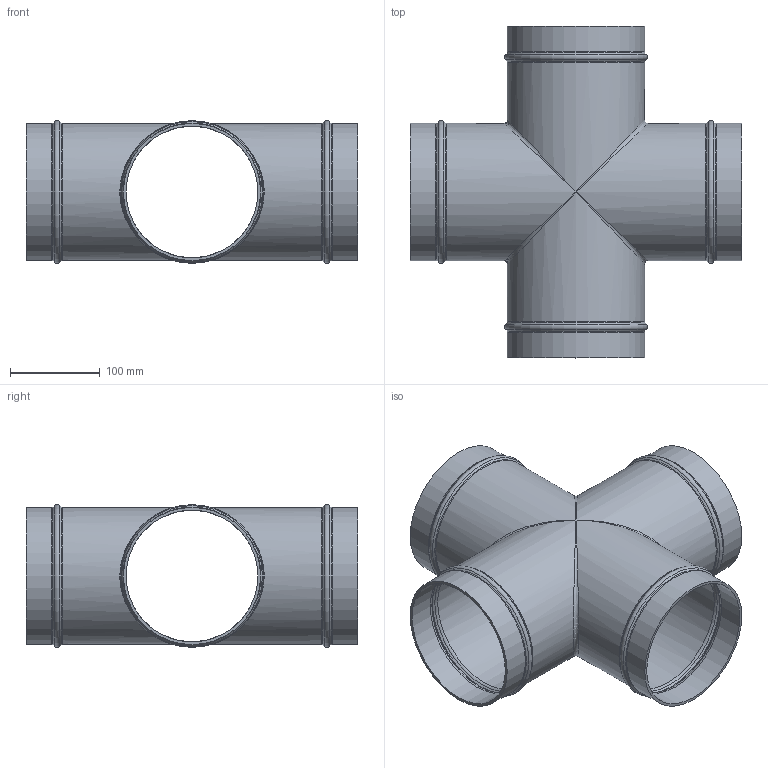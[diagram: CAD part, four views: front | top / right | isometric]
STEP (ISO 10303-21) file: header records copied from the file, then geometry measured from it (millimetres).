
FILE_DESCRIPTION(/* description */ (''),/* implementation_level */ '2;1');
FILE_NAME(/* name */ '30214100001.stp',/* time_stamp */ '2024-08-28T13:19:33+08:00',/* author */ (''),/* organization */ (''),/* preprocessor_version */ 'ST-DEVELOPER v14',/* originating_system */ 'SIEMENS PLM Software NX 8.0',/* authorisation */ '');
FILE_SCHEMA (('CONFIG_CONTROL_DESIGN'));
Length unit declared in the file: millimetre
Products named in the file (1): 30214100001
Bounding box: 370 x 370 x 159 mm (x, y, z)
Volume: 788738 mm3; surface area: 530033.9 mm2
Topology: 1 solids, 1 shells, 64 faces, 139 edges, 67 vertices
Faces by surface type: torus 24, cylinder 16, cone 16, plane 4, bspline 4
Full cylindrical faces by diameter (mm): 147 x8, 153 x8
Entity records: 1584 total; most frequent: CARTESIAN_POINT 405, DIRECTION 258, ORIENTED_EDGE 136, AXIS2_PLACEMENT_3D 129, EDGE_LOOP 124, FACE_BOUND 120, EDGE_CURVE 68, ADVANCED_FACE 64
